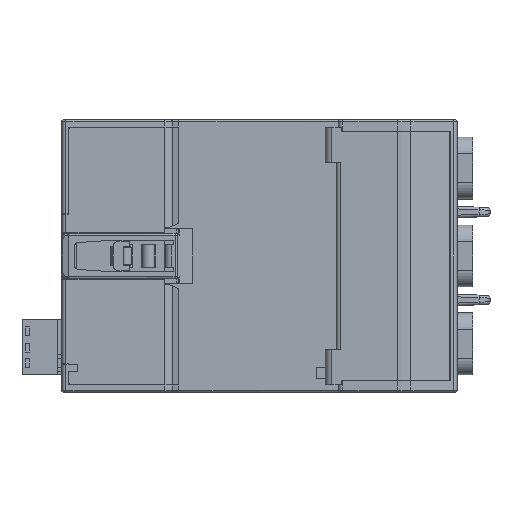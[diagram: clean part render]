
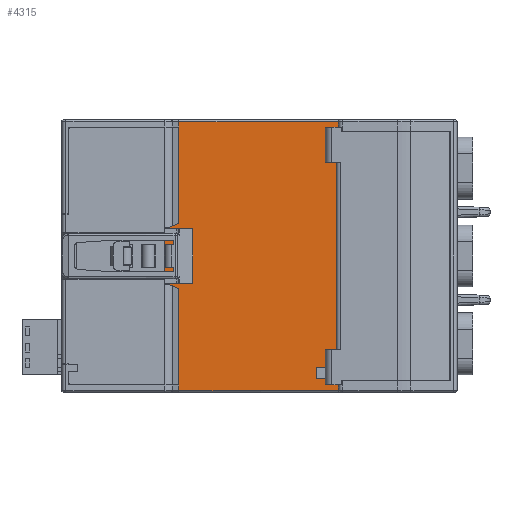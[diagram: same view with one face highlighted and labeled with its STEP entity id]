
A CAD part, front view. The second image highlights one B-rep face of the part: STEP entity #4315.
In plain terms, the highlighted planar face has unit normal (0, -1, 0).
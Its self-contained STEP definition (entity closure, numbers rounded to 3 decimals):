
#1735=CIRCLE('',#44552,2.);
#1736=CIRCLE('',#44554,2.);
#1840=CIRCLE('',#44824,0.4);
#4315=ADVANCED_FACE('',(#9094,#8301),#6105,.F.);
#6105=PLANE('',#46502);
#8301=FACE_OUTER_BOUND('',#11037,.T.);
#9094=FACE_BOUND('',#11036,.T.);
#11036=EDGE_LOOP('',(#20994,#20995,#20996,#20997));
#11037=EDGE_LOOP('',(#20998,#20999,#21000,#21001,#21002,#21003,#21004,#21005,
#21006,#21007,#21008,#21009,#21010,#21011,#21012,#21013,#21014,#21015,#21016,
#21017,#21018,#21019,#21020,#21021,#21022,#21023,#21024,#21025,#21026));
#20994=ORIENTED_EDGE('',*,*,#29142,.T.);
#20995=ORIENTED_EDGE('',*,*,#29155,.F.);
#20996=ORIENTED_EDGE('',*,*,#29166,.F.);
#20997=ORIENTED_EDGE('',*,*,#29159,.T.);
#20998=ORIENTED_EDGE('',*,*,#33165,.T.);
#20999=ORIENTED_EDGE('',*,*,#33166,.T.);
#21000=ORIENTED_EDGE('',*,*,#33167,.F.);
#21001=ORIENTED_EDGE('',*,*,#32938,.F.);
#21002=ORIENTED_EDGE('',*,*,#29996,.T.);
#21003=ORIENTED_EDGE('',*,*,#31558,.T.);
#21004=ORIENTED_EDGE('',*,*,#33160,.F.);
#21005=ORIENTED_EDGE('',*,*,#33168,.F.);
#21006=ORIENTED_EDGE('',*,*,#29289,.F.);
#21007=ORIENTED_EDGE('',*,*,#29325,.T.);
#21008=ORIENTED_EDGE('',*,*,#29340,.F.);
#21009=ORIENTED_EDGE('',*,*,#29345,.F.);
#21010=ORIENTED_EDGE('',*,*,#29331,.F.);
#21011=ORIENTED_EDGE('',*,*,#29217,.F.);
#21012=ORIENTED_EDGE('',*,*,#29329,.F.);
#21013=ORIENTED_EDGE('',*,*,#29343,.F.);
#21014=ORIENTED_EDGE('',*,*,#29335,.F.);
#21015=ORIENTED_EDGE('',*,*,#29322,.T.);
#21016=ORIENTED_EDGE('',*,*,#29296,.F.);
#21017=ORIENTED_EDGE('',*,*,#29484,.T.);
#21018=ORIENTED_EDGE('',*,*,#33111,.F.);
#21019=ORIENTED_EDGE('',*,*,#33024,.F.);
#21020=ORIENTED_EDGE('',*,*,#31289,.T.);
#21021=ORIENTED_EDGE('',*,*,#29819,.T.);
#21022=ORIENTED_EDGE('',*,*,#31561,.T.);
#21023=ORIENTED_EDGE('',*,*,#33169,.F.);
#21024=ORIENTED_EDGE('',*,*,#33170,.T.);
#21025=ORIENTED_EDGE('',*,*,#33171,.F.);
#21026=ORIENTED_EDGE('',*,*,#33172,.T.);
#24777=VERTEX_POINT('',#60459);
#24778=VERTEX_POINT('',#60461);
#24786=VERTEX_POINT('',#60483);
#24788=VERTEX_POINT('',#60492);
#24807=VERTEX_POINT('',#60718);
#24808=VERTEX_POINT('',#60720);
#24867=VERTEX_POINT('',#60851);
#24873=VERTEX_POINT('',#60863);
#24878=VERTEX_POINT('',#60876);
#24879=VERTEX_POINT('',#60878);
#24902=VERTEX_POINT('',#60930);
#24904=VERTEX_POINT('',#60936);
#24907=VERTEX_POINT('',#60944);
#24908=VERTEX_POINT('',#60949);
#24911=VERTEX_POINT('',#60957);
#24915=VERTEX_POINT('',#60966);
#24993=VERTEX_POINT('',#61265);
#25194=VERTEX_POINT('',#62247);
#25242=VERTEX_POINT('',#62400);
#25246=VERTEX_POINT('',#62409);
#25247=VERTEX_POINT('',#62411);
#26336=VERTEX_POINT('',#65958);
#26515=VERTEX_POINT('',#66495);
#26516=VERTEX_POINT('',#66499);
#27344=VERTEX_POINT('',#71607);
#27374=VERTEX_POINT('',#71771);
#27420=VERTEX_POINT('',#72032);
#27421=VERTEX_POINT('',#72042);
#27422=VERTEX_POINT('',#72043);
#27423=VERTEX_POINT('',#72045);
#27424=VERTEX_POINT('',#72049);
#27425=VERTEX_POINT('',#72051);
#27426=VERTEX_POINT('',#72053);
#29142=EDGE_CURVE('',#24778,#24777,#35209,.T.);
#29155=EDGE_CURVE('',#24786,#24777,#35220,.T.);
#29159=EDGE_CURVE('',#24788,#24778,#35224,.T.);
#29166=EDGE_CURVE('',#24788,#24786,#35229,.T.);
#29217=EDGE_CURVE('',#24807,#24808,#35252,.T.);
#29289=EDGE_CURVE('',#24873,#24867,#35320,.T.);
#29296=EDGE_CURVE('',#24878,#24879,#35327,.T.);
#29322=EDGE_CURVE('',#24902,#24879,#35352,.T.);
#29325=EDGE_CURVE('',#24873,#24904,#35355,.T.);
#29329=EDGE_CURVE('',#24907,#24807,#35359,.T.);
#29331=EDGE_CURVE('',#24808,#24908,#35360,.T.);
#29335=EDGE_CURVE('',#24902,#24911,#35363,.T.);
#29340=EDGE_CURVE('',#24915,#24904,#35367,.T.);
#29343=EDGE_CURVE('',#24911,#24907,#1735,.T.);
#29345=EDGE_CURVE('',#24908,#24915,#1736,.T.);
#29484=EDGE_CURVE('',#24878,#24993,#35494,.T.);
#29819=EDGE_CURVE('',#25247,#25246,#1840,.T.);
#29996=EDGE_CURVE('',#25242,#25194,#35786,.T.);
#31289=EDGE_CURVE('',#26336,#25247,#36735,.T.);
#31558=EDGE_CURVE('',#25194,#26515,#36996,.T.);
#31561=EDGE_CURVE('',#25246,#26516,#36999,.T.);
#32938=EDGE_CURVE('',#25242,#27344,#38067,.T.);
#33024=EDGE_CURVE('',#26336,#27374,#38123,.T.);
#33111=EDGE_CURVE('',#27374,#24993,#38193,.T.);
#33160=EDGE_CURVE('',#27420,#26515,#38229,.T.);
#33165=EDGE_CURVE('',#27421,#27422,#38234,.T.);
#33166=EDGE_CURVE('',#27422,#27423,#38235,.T.);
#33167=EDGE_CURVE('',#27344,#27423,#38236,.T.);
#33168=EDGE_CURVE('',#24867,#27420,#38237,.T.);
#33169=EDGE_CURVE('',#27424,#26516,#38238,.T.);
#33170=EDGE_CURVE('',#27424,#27425,#38239,.T.);
#33171=EDGE_CURVE('',#27426,#27425,#38240,.T.);
#33172=EDGE_CURVE('',#27426,#27421,#38241,.T.);
#35209=LINE('',#60460,#39825);
#35220=LINE('',#60484,#39836);
#35224=LINE('',#60491,#39840);
#35229=LINE('',#60503,#39845);
#35252=LINE('',#60719,#39868);
#35320=LINE('',#60864,#39936);
#35327=LINE('',#60877,#39943);
#35352=LINE('',#60929,#39968);
#35355=LINE('',#60935,#39971);
#35359=LINE('',#60945,#39975);
#35360=LINE('',#60948,#39976);
#35363=LINE('',#60956,#39979);
#35367=LINE('',#60967,#39983);
#35494=LINE('',#61266,#40110);
#35786=LINE('',#62803,#40402);
#36735=LINE('',#65964,#41367);
#36996=LINE('',#66494,#41628);
#36999=LINE('',#66500,#41631);
#38067=LINE('',#71608,#42782);
#38123=LINE('',#71770,#42838);
#38193=LINE('',#71937,#42908);
#38229=LINE('',#72033,#42944);
#38234=LINE('',#72041,#42949);
#38235=LINE('',#72044,#42950);
#38236=LINE('',#72046,#42951);
#38237=LINE('',#72047,#42952);
#38238=LINE('',#72048,#42953);
#38239=LINE('',#72050,#42954);
#38240=LINE('',#72052,#42955);
#38241=LINE('',#72054,#42956);
#39825=VECTOR('',#48846,1.);
#39836=VECTOR('',#48865,1.);
#39840=VECTOR('',#48873,1.);
#39845=VECTOR('',#48884,1.);
#39868=VECTOR('',#49005,1.);
#39936=VECTOR('',#49095,1.);
#39943=VECTOR('',#49104,1.);
#39968=VECTOR('',#49137,1.);
#39971=VECTOR('',#49142,1.);
#39975=VECTOR('',#49150,1.);
#39976=VECTOR('',#49155,1.);
#39979=VECTOR('',#49162,1.);
#39983=VECTOR('',#49170,1.);
#40110=VECTOR('',#49457,1.);
#40402=VECTOR('',#50419,1.);
#41367=VECTOR('',#52680,1.);
#41628=VECTOR('',#53125,1.);
#41631=VECTOR('',#53130,1.);
#42782=VECTOR('',#55493,1.);
#42838=VECTOR('',#55703,1.);
#42908=VECTOR('',#55907,1.);
#42944=VECTOR('',#56029,1.);
#42949=VECTOR('',#56040,1.);
#42950=VECTOR('',#56041,1.);
#42951=VECTOR('',#56042,1.);
#42952=VECTOR('',#56043,1.);
#42953=VECTOR('',#56044,1.);
#42954=VECTOR('',#56045,1.);
#42955=VECTOR('',#56046,1.);
#42956=VECTOR('',#56047,1.);
#44552=AXIS2_PLACEMENT_3D('',#60972,#49176,#49177);
#44554=AXIS2_PLACEMENT_3D('',#60981,#49180,#49181);
#44824=AXIS2_PLACEMENT_3D('',#62410,#50044,#50045);
#46502=AXIS2_PLACEMENT_3D('',#72055,#56048,#56049);
#48846=DIRECTION('',(0.,0.,1.));
#48865=DIRECTION('',(-1.,0.,0.));
#48873=DIRECTION('',(-1.,0.,0.));
#48884=DIRECTION('',(0.,0.,1.));
#49005=DIRECTION('',(0.,0.,1.));
#49095=DIRECTION('',(-1.,0.,0.));
#49104=DIRECTION('',(1.,0.,0.));
#49137=DIRECTION('',(0.,0.,-1.));
#49142=DIRECTION('',(0.,0.,-1.));
#49150=DIRECTION('',(-1.,0.,0.));
#49155=DIRECTION('',(1.,0.,0.));
#49162=DIRECTION('',(-0.928,0.,0.371));
#49170=DIRECTION('',(0.928,0.,0.371));
#49176=DIRECTION('',(0.,-1.,0.));
#49177=DIRECTION('',(0.,0.,1.));
#49180=DIRECTION('',(0.,-1.,0.));
#49181=DIRECTION('',(0.,0.,1.));
#49457=DIRECTION('',(0.,0.,-1.));
#50044=DIRECTION('',(0.,1.,0.));
#50045=DIRECTION('',(0.,0.,1.));
#50419=DIRECTION('',(-1.,0.,0.));
#52680=DIRECTION('',(1.,0.,0.));
#53125=DIRECTION('',(0.,0.,-1.));
#53130=DIRECTION('',(0.,0.,1.));
#55493=DIRECTION('',(0.,0.,-1.));
#55703=DIRECTION('',(0.,0.,1.));
#55907=DIRECTION('',(-1.,0.,0.));
#56029=DIRECTION('',(1.,0.,0.));
#56040=DIRECTION('',(1.,0.,0.));
#56041=DIRECTION('',(0.,0.,1.));
#56042=DIRECTION('',(-1.,0.,0.));
#56043=DIRECTION('',(0.,0.,1.));
#56044=DIRECTION('',(1.,0.,0.));
#56045=DIRECTION('',(0.,0.,1.));
#56046=DIRECTION('',(1.,0.,0.));
#56047=DIRECTION('',(0.,0.,1.));
#56048=DIRECTION('',(0.,1.,0.));
#56049=DIRECTION('',(0.,0.,1.));
#60459=CARTESIAN_POINT('',(26.2,5.5,37.2));
#60460=CARTESIAN_POINT('',(26.2,5.5,24.7));
#60461=CARTESIAN_POINT('',(26.2,5.5,24.7));
#60483=CARTESIAN_POINT('',(28.,5.5,37.2));
#60484=CARTESIAN_POINT('',(28.,5.5,37.2));
#60491=CARTESIAN_POINT('',(28.,5.5,24.7));
#60492=CARTESIAN_POINT('',(28.,5.5,24.7));
#60503=CARTESIAN_POINT('',(28.,5.5,24.7));
#60718=CARTESIAN_POINT('',(23.4,5.5,24.55));
#60719=CARTESIAN_POINT('',(23.4,5.5,37.95));
#60720=CARTESIAN_POINT('',(23.4,5.5,37.35));
#60851=CARTESIAN_POINT('',(20.4,5.5,60.25));
#60863=CARTESIAN_POINT('',(26.7,5.5,60.25));
#60864=CARTESIAN_POINT('',(45.,5.5,60.25));
#60876=CARTESIAN_POINT('',(20.55,5.5,1.65));
#60877=CARTESIAN_POINT('',(45.,5.5,1.65));
#60878=CARTESIAN_POINT('',(26.7,5.5,1.65));
#60929=CARTESIAN_POINT('',(26.7,5.5,35.95));
#60930=CARTESIAN_POINT('',(26.7,5.5,23.55));
#60935=CARTESIAN_POINT('',(26.7,5.5,35.95));
#60936=CARTESIAN_POINT('',(26.7,5.5,38.35));
#60944=CARTESIAN_POINT('',(23.815,5.5,24.55));
#60945=CARTESIAN_POINT('',(22.7,5.5,24.55));
#60948=CARTESIAN_POINT('',(22.7,5.5,37.35));
#60949=CARTESIAN_POINT('',(23.815,5.5,37.35));
#60956=CARTESIAN_POINT('',(26.7,5.5,23.55));
#60957=CARTESIAN_POINT('',(24.558,5.5,24.407));
#60966=CARTESIAN_POINT('',(24.558,5.5,37.493));
#60967=CARTESIAN_POINT('',(24.2,5.5,37.35));
#60972=CARTESIAN_POINT('',(23.815,5.5,22.55));
#60981=CARTESIAN_POINT('',(23.815,5.5,39.35));
#61265=CARTESIAN_POINT('',(20.55,5.5,1.6));
#61266=CARTESIAN_POINT('',(20.55,5.5,3.));
#62247=CARTESIAN_POINT('',(26.7,5.5,61.5));
#62400=CARTESIAN_POINT('',(63.,5.5,61.5));
#62409=CARTESIAN_POINT('',(63.,5.5,0.4));
#62410=CARTESIAN_POINT('',(63.4,5.5,0.4));
#62411=CARTESIAN_POINT('',(63.013,5.5,0.3));
#62803=CARTESIAN_POINT('',(26.7,5.5,61.5));
#65958=CARTESIAN_POINT('',(26.7,5.5,0.3));
#65964=CARTESIAN_POINT('',(63.,5.5,0.3));
#66494=CARTESIAN_POINT('',(26.7,5.5,32.9));
#66495=CARTESIAN_POINT('',(26.7,5.5,60.3));
#66499=CARTESIAN_POINT('',(63.,5.5,1.65));
#66500=CARTESIAN_POINT('',(63.,5.5,3.));
#71607=CARTESIAN_POINT('',(63.,5.5,60.25));
#71608=CARTESIAN_POINT('',(63.,5.5,32.9));
#71770=CARTESIAN_POINT('',(26.7,5.5,3.));
#71771=CARTESIAN_POINT('',(26.7,5.5,1.6));
#71937=CARTESIAN_POINT('',(45.,5.5,1.6));
#72032=CARTESIAN_POINT('',(20.4,5.5,60.3));
#72033=CARTESIAN_POINT('',(22.4,5.5,60.3));
#72041=CARTESIAN_POINT('',(22.4,5.5,5.55));
#72042=CARTESIAN_POINT('',(58.,5.5,5.55));
#72043=CARTESIAN_POINT('',(62.5,5.5,5.55));
#72044=CARTESIAN_POINT('',(62.5,5.5,-0.05));
#72045=CARTESIAN_POINT('',(62.5,5.5,60.25));
#72046=CARTESIAN_POINT('',(45.,5.5,60.25));
#72047=CARTESIAN_POINT('',(20.4,5.5,5.55));
#72048=CARTESIAN_POINT('',(45.,5.5,1.65));
#72049=CARTESIAN_POINT('',(62.5,5.5,1.65));
#72050=CARTESIAN_POINT('',(62.5,5.5,-0.05));
#72051=CARTESIAN_POINT('',(62.5,5.5,3.));
#72052=CARTESIAN_POINT('',(54.45,5.5,3.));
#72053=CARTESIAN_POINT('',(58.,5.5,3.));
#72054=CARTESIAN_POINT('',(58.,5.5,17.15));
#72055=CARTESIAN_POINT('',(26.7,5.5,0.));
